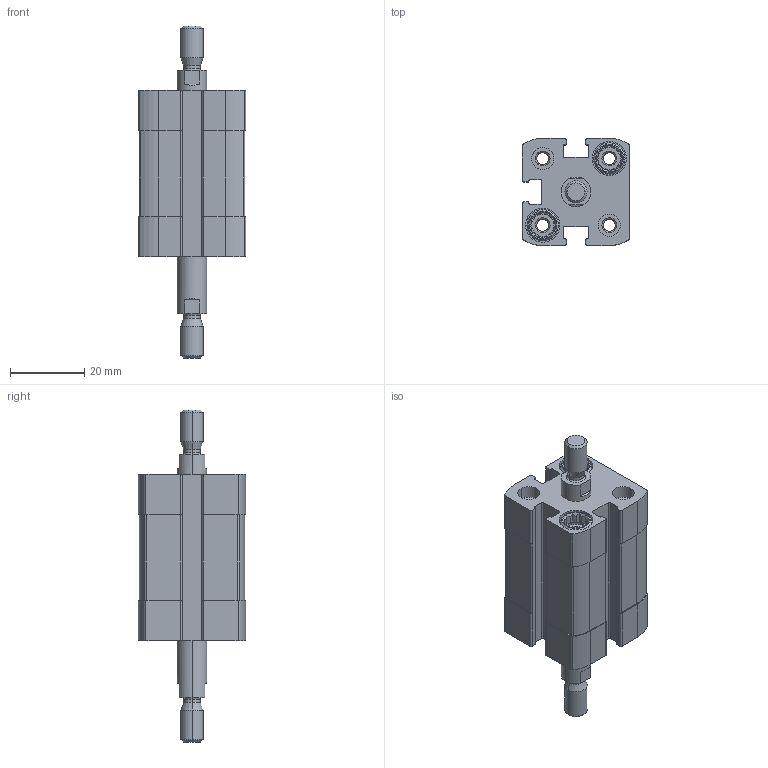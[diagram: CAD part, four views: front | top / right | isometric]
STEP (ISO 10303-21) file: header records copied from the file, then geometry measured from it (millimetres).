
FILE_DESCRIPTION (( 'STEP AP203' ), '1' );
FILE_NAME ('CCN16-10-P.STEP', '2020-06-22T18:36:46', ( '' ), ( '' ), 'SwSTEP 2.0', 'SolidWorks 2019', '' );
FILE_SCHEMA (( 'CONFIG_CONTROL_DESIGN' ));
Length unit declared in the file: millimetre
Products named in the file (1): CCN16-10-P
Bounding box: 29 x 29 x 89.7 mm (x, y, z)
Volume: 29619.9 mm3; surface area: 15807 mm2
Topology: 2 solids, 2 shells, 384 faces, 978 edges, 634 vertices
Faces by surface type: plane 192, cylinder 140, cone 44, torus 8
Entity records: 11803 total; most frequent: CARTESIAN_POINT 2297, DIRECTION 1990, ORIENTED_EDGE 1956, EDGE_CURVE 978, AXIS2_PLACEMENT_3D 727, VERTEX_POINT 634, LINE 536, VECTOR 536
